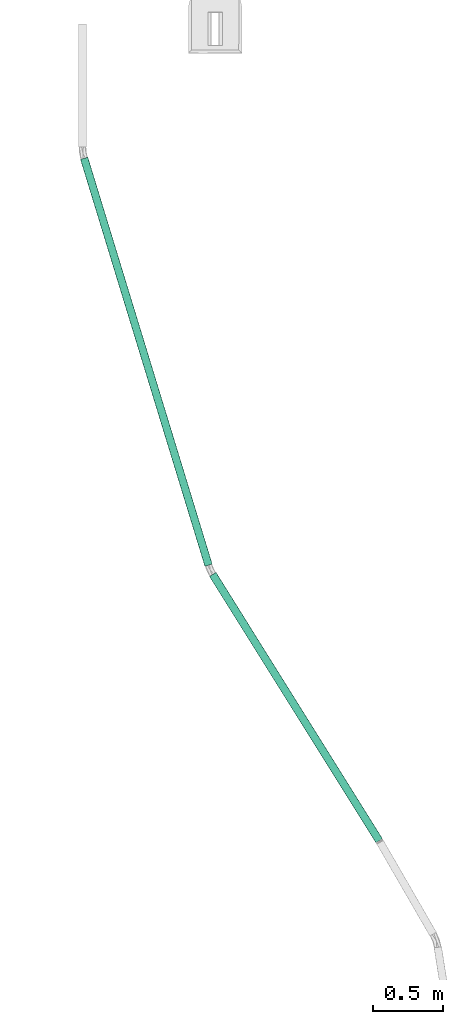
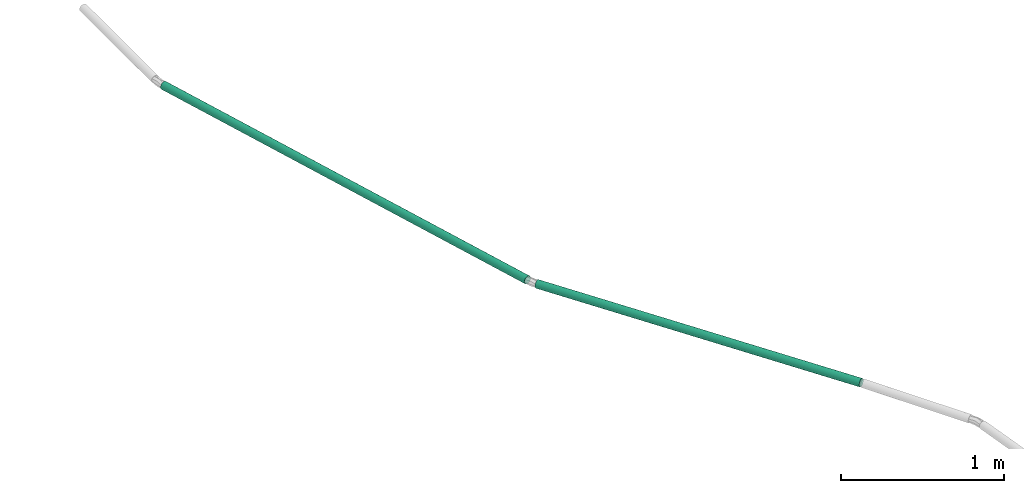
# One storey, part 20 of 153: 2 flow segments.
"""IFC2X3 building model written with IfcOpenShell, lengths in metres."""

from ifc_helpers import new_model, entity, si_unit, converted_unit, derived_unit, direction, frame, frame_2d, origin, place, context, subcontext, project, spatial, circle, extrude, type_object, element, save


model = new_model("IFC2X3")

# Units and contexts
model_context = context("Model", 3, precision=1e-05, world=origin(), true_north=direction((6.12303176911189e-17, 1.0)))
body_context = subcontext(model_context, "Body", "Model", "MODEL_VIEW")
ifc_project = project(units=[si_unit("LENGTHUNIT", "METRE"), si_unit("AREAUNIT", "SQUARE_METRE"), si_unit("VOLUMEUNIT", "CUBIC_METRE"), converted_unit("PLANEANGLEUNIT", "DEGREE", entity("IfcRatioMeasure", 0.0174532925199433), si_unit("PLANEANGLEUNIT", "RADIAN"), dimensions=[0, 0, 0, 0, 0, 0, 0]), si_unit("MASSUNIT", "GRAM", prefix="KILO"), derived_unit("MASSDENSITYUNIT", [(si_unit("MASSUNIT", "GRAM", prefix="KILO"), 1), (si_unit("LENGTHUNIT", "METRE"), -3)]), si_unit("TIMEUNIT", "SECOND"), si_unit("FREQUENCYUNIT", "HERTZ"), si_unit("THERMODYNAMICTEMPERATUREUNIT", "DEGREE_CELSIUS"), derived_unit("THERMALTRANSMITTANCEUNIT", [(si_unit("MASSUNIT", "GRAM", prefix="KILO"), 1), (si_unit("THERMODYNAMICTEMPERATUREUNIT", "KELVIN"), -1), (si_unit("TIMEUNIT", "SECOND"), -3)]), derived_unit("VOLUMETRICFLOWRATEUNIT", [(si_unit("LENGTHUNIT", "METRE"), 3), (si_unit("TIMEUNIT", "SECOND"), -1)]), si_unit("ELECTRICCURRENTUNIT", "AMPERE"), si_unit("ELECTRICVOLTAGEUNIT", "VOLT"), si_unit("POWERUNIT", "WATT"), si_unit("FORCEUNIT", "NEWTON"), si_unit("ILLUMINANCEUNIT", "LUX"), si_unit("LUMINOUSFLUXUNIT", "LUMEN"), si_unit("LUMINOUSINTENSITYUNIT", "CANDELA"), derived_unit("USERDEFINED", [(si_unit("MASSUNIT", "GRAM", prefix="KILO"), -1), (si_unit("LENGTHUNIT", "METRE"), -2), (si_unit("TIMEUNIT", "SECOND"), 3), (si_unit("LUMINOUSFLUXUNIT", "LUMEN"), 1)]), derived_unit("LINEARVELOCITYUNIT", [(si_unit("LENGTHUNIT", "METRE"), 1), (si_unit("TIMEUNIT", "SECOND"), -1)]), si_unit("PRESSUREUNIT", "PASCAL"), derived_unit("USERDEFINED", [(si_unit("LENGTHUNIT", "METRE"), -2), (si_unit("MASSUNIT", "GRAM", prefix="KILO"), 1), (si_unit("TIMEUNIT", "SECOND"), -2)])], contexts=[model_context])

# Site, building, storey
site_placement = place(None, origin())
site = spatial("IfcSite", under=ifc_project, at=site_placement, Name="Default", CompositionType="ELEMENT")
building_placement = place(site_placement, origin())
building = spatial("IfcBuilding", under=site, at=building_placement, CompositionType="ELEMENT")
storey_placement = place(building_placement, frame((0.0, 0.0, -4.62)))
storey = spatial("IfcBuildingStorey", under=building, at=storey_placement, Name="S02", CompositionType="ELEMENT", Elevation=-4.62)

# Flow segments
cable_carrier_segment_type = type_object("IfcCableCarrierSegmentType", Name="Conduit without Fittings:Conduit", PredefinedType="NOTDEFINED")
flow_segment_1_placement = place(building_placement, frame((0.0, 0.0, -4.62)))
element("IfcFlowSegment", 1, at=flow_segment_1_placement, inside=storey, type_object=cable_carrier_segment_type, Name="Conduit without Fittings:Conduit", ObjectType="Conduit without Fittings:Conduit", context=body_context, shape_type="SweptSolid", body=[
    extrude(circle(Radius=0.0279, at=frame_2d((-3.67329362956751e-15, 0.0), x_axis=(1.0, 0.0))), frame((37.7835160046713, -177.324749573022, -0.172099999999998), z_axis=(0.529919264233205, -0.848048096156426, 0.0), x_axis=(0.848048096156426, 0.529919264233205, 0.0)), (0.0, 0.0, 1.0), 2.24586024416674),
])
flow_segment_2_placement = place(building_placement, frame((0.0, 0.0, -4.62)))
element("IfcFlowSegment", 2, at=flow_segment_2_placement, inside=storey, type_object=cable_carrier_segment_type, Name="Conduit without Fittings:Conduit", ObjectType="Conduit without Fittings:Conduit", context=body_context, shape_type="SweptSolid", body=[
    extrude(circle(Radius=0.0279, at=frame_2d((-4.14220394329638e-15, 0.0), x_axis=(1.0, 0.0))), frame((37.7535510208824, -177.25899741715, -0.172099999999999), z_axis=(-0.292371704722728, 0.956304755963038, 0.0), x_axis=(0.956304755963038, 0.292371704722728, 0.0)), (0.0, 0.0, 1.0), 3.04232693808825),
])

save(model, "model.ifc")
